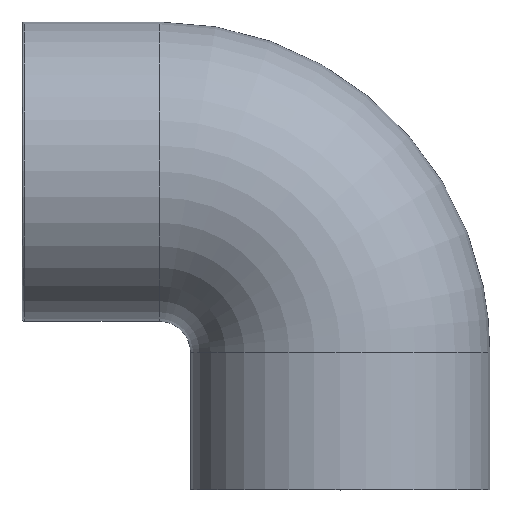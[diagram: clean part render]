
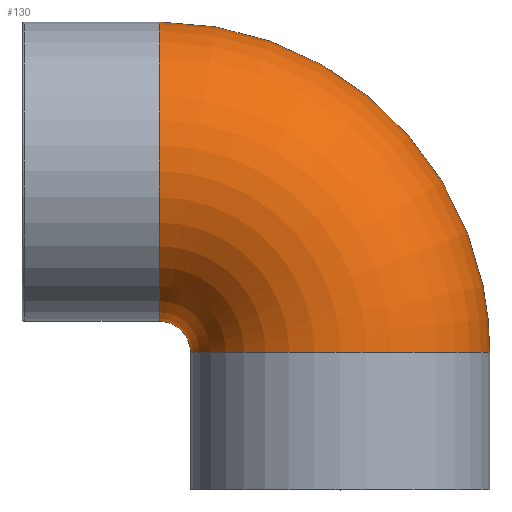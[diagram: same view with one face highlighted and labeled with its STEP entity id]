
A CAD part, top view. The second image highlights one B-rep face of the part: STEP entity #130.
In plain terms, the highlighted toroidal (fillet/blend) face has major radius 29 mm and minor radius 24 mm.
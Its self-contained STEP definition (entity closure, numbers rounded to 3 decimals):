
#28=FACE_BOUND('',#56,.T.);
#39=FACE_OUTER_BOUND('',#55,.T.);
#55=EDGE_LOOP('',(#110));
#56=EDGE_LOOP('',(#111));
#73=CIRCLE('',#150,24.);
#74=CIRCLE('',#151,24.);
#84=VERTEX_POINT('',#225);
#85=VERTEX_POINT('',#227);
#95=EDGE_CURVE('',#84,#84,#73,.T.);
#96=EDGE_CURVE('',#85,#85,#74,.T.);
#110=ORIENTED_EDGE('',*,*,#95,.T.);
#111=ORIENTED_EDGE('',*,*,#96,.T.);
#123=TOROIDAL_SURFACE('',#149,29.,24.);
#130=ADVANCED_FACE('',(#39,#28),#123,.T.);
#149=AXIS2_PLACEMENT_3D('',#224,#184,#185);
#150=AXIS2_PLACEMENT_3D('',#226,#186,#187);
#151=AXIS2_PLACEMENT_3D('',#228,#188,#189);
#184=DIRECTION('center_axis',(0.,0.,-1.));
#185=DIRECTION('ref_axis',(-1.,0.,0.));
#186=DIRECTION('center_axis',(0.,1.,0.));
#187=DIRECTION('ref_axis',(0.,0.,-1.));
#188=DIRECTION('center_axis',(1.,0.,0.));
#189=DIRECTION('ref_axis',(0.,0.,-1.));
#224=CARTESIAN_POINT('Origin',(-29.,-29.,0.));
#225=CARTESIAN_POINT('',(0.,-29.,24.));
#226=CARTESIAN_POINT('Origin',(0.,-29.,0.));
#227=CARTESIAN_POINT('',(-29.,0.,-24.));
#228=CARTESIAN_POINT('Origin',(-29.,0.,0.));
